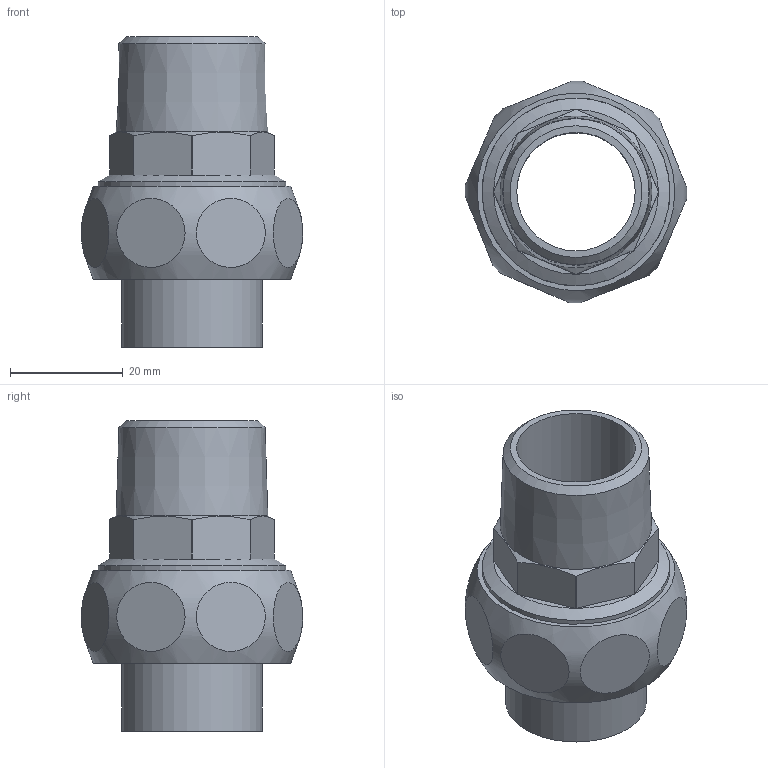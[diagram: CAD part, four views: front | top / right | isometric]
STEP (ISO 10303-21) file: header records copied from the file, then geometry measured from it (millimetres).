
FILE_DESCRIPTION((''),'2;1');
FILE_NAME('G:\Engineering\Public\RYSUNKI\SANHA POLSKA\4333g\step\14333g_22-34(1).stp','2013-09-25T13:52:25',('haldrzynski'),(''),'Autodesk Inventor 2009','Autodesk Inventor 2009','');
FILE_SCHEMA(('AUTOMOTIVE_DESIGN { 1 0 10303 214 1 1 1 1 }'));
Length unit declared in the file: millimetre
Products named in the file (5): 14333g_22-34(1); 1DCU1; 14372_22-1(1); 14374_1; 14376G_34-1(3)
Assembly tree (4 placements, depth 2):
  14333g_22-34(1)
    1DCU1
    14372_22-1(1)
    14374_1
    14376G_34-1(3)
Bounding box: 39.26 x 39.26 x 55 mm (x, y, z)
Volume: 20059.8 mm3; surface area: 14832.1 mm2
Topology: 4 solids, 4 shells, 60 faces, 113 edges, 71 vertices
Faces by surface type: plane 35, cylinder 18, cone 6, bspline 1
Full cylindrical faces by diameter (mm): 21 x3, 22 x1, 25 x1, 27.5 x1, 29.5 x1, 30 x1, 30.291 x1, 33.249 x1
Entity records: 2772 total; most frequent: CARTESIAN_POINT 1493, DIRECTION 262, ORIENTED_EDGE 182, AXIS2_PLACEMENT_3D 119, EDGE_LOOP 96, EDGE_CURVE 91, VERTEX_POINT 67, FACE_OUTER_BOUND 60
